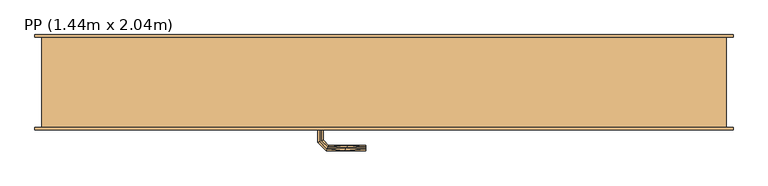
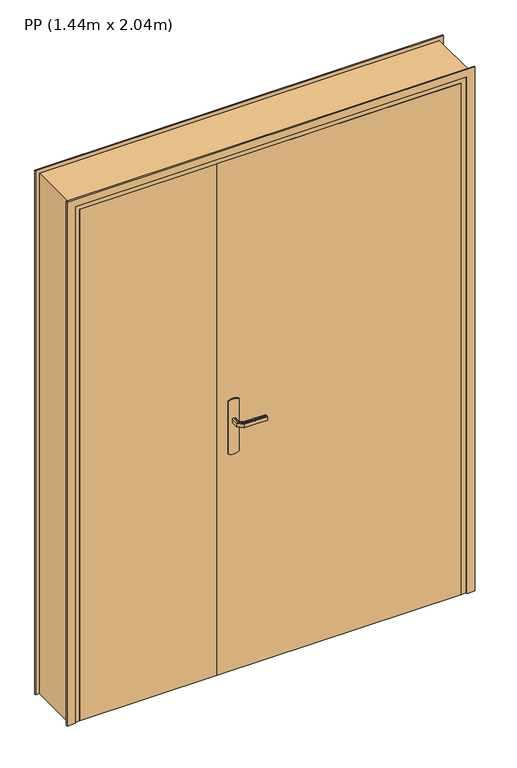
"""IFC4 building model written with IfcOpenShell, lengths in millimetres: door geometry, PP (1.44m x 2.04m)."""

from ifc_helpers import new_model, si_unit, frame, origin, origin_with_axes, place, context, project, spatial, polyline, outline, extrude, faceted_brep, source, transform, mapped, element, save


def pp_1_44m_x_2_04m_6fe1686b(model_context):
    return source(origin(), model_context, "Body", "SolidModel", [
        extrude(outline(polyline([(625.0, 40.0), (1545.0, 40.0), (1545.0, 0.0), (625.0, 0.0), (625.0, 40.0)])), origin_with_axes(), (0.0, 0.0, 1.0), 2040.0),
        extrude(outline(polyline([(866.0039831, 695.3527618), (870.0, 705.0), (1080.0, 705.0), (1083.9960169, 695.3527618), (1085.3589838, 685.0), (1083.9960169, 674.6472382), (1080.0, 665.0), (870.0, 665.0), (866.0039831, 674.6472382), (864.6410162, 685.0), (866.0039831, 695.3527618)])), frame((0.0, 40.0, 0.0), z_axis=(0.0, 1.0, 0.0), x_axis=(0.0, 0.0, 1.0)), (0.0, 0.0, 1.0), 5.0),
        faceted_brep([(682.9747013, -5.0, 1007.7804408), (687.0252987, -5.0, 1007.7804408), (691.0, -5.0, 1007.0), (691.0, -5.0, 993.0), (687.0252987, -5.0, 992.2195592), (682.9747013, -5.0, 992.2195592), (679.0, -5.0, 993.0), (679.0, -5.0, 1007.0), (679.0, -32.6509507, 1007.0), (682.9747013, -31.0045755, 1007.7804408), (699.0235852, -47.0534593, 1007.7804408), (700.7013975, -43.002862, 1007.7804408), (687.0252987, -29.3267632, 1007.7804408), (691.0, -27.680388, 1007.0), (691.0, -27.680388, 993.0), (687.0252987, -29.3267632, 992.2195592), (700.7013975, -43.002862, 992.2195592), (699.0235852, -47.0534593, 992.2195592), (682.9747013, -31.0045755, 992.2195592), (679.0, -32.6509507, 993.0), (697.37721, -51.0281607, 1007.0), (702.3477727, -39.0281607, 1007.0), (702.3477727, -39.0281607, 993.0), (697.37721, -51.0281607, 993.0), (785.0186406, -51.0281607, 993.0), (785.0186406, -47.0534593, 992.2195592), (785.0186406, -43.002862, 992.2195592), (785.0186406, -39.0281607, 993.0), (785.0186406, -39.0281607, 1007.0), (785.0186406, -43.002862, 1007.7804408), (785.0186406, -47.0534593, 1007.7804408), (785.0186406, -51.0281607, 1007.0), (737.3076972, -51.0281607, 1007.0), (742.8600191, -45.0281607, 1007.8786868), (743.6832067, -39.0281607, 1007.0), (743.6832067, -39.0281607, 993.0), (742.8600189, -45.0281608, 992.1213132), (737.3077002, -51.0281607, 993.0)], [[[0, 1, 2, 3, 4, 5, 6, 7]], [[8, 9, 0, 7]], [[9, 10, 11, 12, 1, 0]], [[12, 13, 2, 1]], [[3, 2, 13, 14]], [[14, 15, 4, 3]], [[15, 16, 17, 18, 5, 4]], [[18, 19, 6, 5]], [[7, 6, 19, 8]], [[20, 10, 9, 8]], [[11, 21, 13, 12]], [[14, 13, 21, 22]], [[22, 16, 15, 14]], [[17, 23, 19, 18]], [[8, 19, 23, 20]], [[24, 25, 26, 27, 28, 29, 30, 31]], [[32, 30, 33]], [[31, 30, 32]], [[10, 20, 32]], [[33, 34, 11]], [[21, 11, 34]], [[34, 29, 28]], [[30, 29, 33]], [[29, 34, 33]], [[10, 32, 33]], [[10, 33, 11]], [[22, 21, 34, 28, 27, 35]], [[35, 26, 36]], [[37, 36, 25]], [[22, 35, 16]], [[35, 27, 26]], [[24, 37, 25]], [[23, 17, 37]], [[37, 17, 36]], [[17, 16, 36]], [[16, 35, 36]], [[25, 36, 26]], [[20, 23, 37, 24, 31, 32]]]),
        faceted_brep([(1580.0, 0.0, 0.0), (1545.0, 0.0, 0.0), (1545.0, 40.0, 0.0), (1530.0, 40.0, 0.0), (1530.0, 200.0, 0.0), (1580.0, 200.0, 0.0), (1580.0, 200.0, 2075.0), (1580.0, 0.0, 2075.0), (1530.0, 200.0, 2025.0), (120.0, 200.0, 2025.0), (120.0, 200.0, 0.0), (70.0, 200.0, 0.0), (70.0, 200.0, 2075.0), (1530.0, 40.0, 2025.0), (1545.0, 40.0, 2040.0), (105.0, 40.0, 2040.0), (105.0, 40.0, 0.0), (120.0, 40.0, 0.0), (120.0, 40.0, 2025.0), (1545.0, 0.0, 2040.0), (70.0, 0.0, 2075.0), (70.0, 0.0, 0.0), (105.0, 0.0, 0.0), (105.0, 0.0, 2040.0)], [[[0, 1, 2, 3, 4, 5]], [[5, 6, 7, 0]], [[4, 8, 9, 10, 11, 12, 6, 5]], [[3, 13, 8, 4]], [[2, 14, 15, 16, 17, 18, 13, 3]], [[1, 19, 14, 2]], [[0, 7, 20, 21, 22, 23, 19, 1]], [[12, 11, 21, 20]], [[21, 11, 10, 17, 16, 22]], [[18, 17, 10, 9]], [[23, 22, 16, 15]], [[6, 12, 20, 7]], [[13, 18, 9, 8]], [[19, 23, 15, 14]]]),
        extrude(outline(polyline([(105.0, 0.0), (105.0, 40.0), (625.0, 40.0), (625.0, 0.0), (105.0, 0.0)])), origin_with_axes(), (0.0, 0.0, 1.0), 2040.0),
        faceted_brep([(682.9747013, 45.0, 1007.7804408), (679.0, 45.0, 1007.0), (679.0, 45.0, 993.0), (682.9747013, 45.0, 992.2195592), (687.0252987, 45.0, 992.2195592), (691.0, 45.0, 993.0), (691.0, 45.0, 1007.0), (687.0252987, 45.0, 1007.7804408), (691.0, 67.4852045, 993.0), (691.0, 67.4852045, 1007.0), (687.0252987, 69.1315797, 1007.7804408), (700.8389062, 82.9451872, 1007.7804408), (699.1610938, 86.9957845, 1007.7804408), (682.9747013, 70.8093921, 1007.7804408), (679.0, 72.4557673, 1007.0), (679.0, 72.4557673, 993.0), (682.9747013, 70.8093921, 992.2195592), (699.1610938, 86.9957845, 992.2195592), (700.8389062, 82.9451872, 992.2195592), (687.0252987, 69.1315797, 992.2195592), (702.4852814, 78.9704859, 993.0), (702.4852814, 78.9704859, 1007.0), (697.5147186, 90.9704859, 1007.0), (697.5147186, 90.9704859, 993.0), (785.0457837, 78.9704859, 993.0), (785.0457837, 82.9451872, 992.2195592), (785.0457837, 86.9957845, 992.2195592), (785.0457837, 90.9704859, 993.0), (785.0457837, 90.9704859, 1007.0), (785.0457837, 86.9957845, 1007.7804408), (785.0457837, 82.9451872, 1007.7804408), (785.0457837, 78.9704859, 1007.0), (743.7655206, 78.9704859, 993.0), (743.7655325, 78.9704859, 1007.0), (742.9423449, 84.9704859, 1007.8786868), (737.4452058, 90.9704859, 1007.0), (737.4452043, 90.9704859, 993.0), (742.9423451, 84.9704858, 992.1213132)], [[[0, 1, 2, 3, 4, 5, 6, 7]], [[6, 5, 8, 9]], [[9, 10, 7, 6]], [[10, 11, 12, 13, 0, 7]], [[13, 14, 1, 0]], [[2, 1, 14, 15]], [[15, 16, 3, 2]], [[16, 17, 18, 19, 4, 3]], [[19, 8, 5, 4]], [[9, 8, 20, 21]], [[21, 11, 10, 9]], [[12, 22, 14, 13]], [[15, 14, 22, 23]], [[23, 17, 16, 15]], [[18, 20, 8, 19]], [[24, 25, 26, 27, 28, 29, 30, 31]], [[21, 20, 32, 24, 31, 33]], [[33, 30, 34]], [[35, 34, 29]], [[21, 33, 11]], [[33, 31, 30]], [[28, 35, 29]], [[22, 12, 35]], [[35, 12, 34]], [[12, 11, 34]], [[11, 33, 34]], [[29, 34, 30]], [[22, 35, 28, 27, 36, 23]], [[36, 26, 37]], [[27, 26, 36]], [[17, 23, 36]], [[37, 32, 18]], [[20, 18, 32]], [[32, 25, 24]], [[26, 25, 37]], [[25, 32, 37]], [[17, 36, 37]], [[17, 37, 18]]]),
        extrude(outline(polyline([(866.0039831, 695.3527618), (870.0, 705.0), (1080.0, 705.0), (1083.9960169, 695.3527618), (1085.3589838, 685.0), (1083.9960169, 674.6472382), (1080.0, 665.0), (870.0, 665.0), (866.0039831, 674.6472382), (864.6410162, 685.0), (866.0039831, 695.3527618)])), frame((0.0, -5.0, 0.0), z_axis=(0.0, 1.0, 0.0), x_axis=(0.0, 0.0, 1.0)), (0.0, 0.0, 1.0), 5.0),
        extrude(outline(polyline([(0.0, 1595.0), (2090.0, 1595.0), (2090.0, 55.0), (0.0, 55.0), (0.0, 85.0), (2060.0, 85.0), (2060.0, 1565.0), (0.0, 1565.0), (0.0, 1595.0)])), frame((0.0, -5.0, 0.0), z_axis=(0.0, 1.0, 0.0), x_axis=(0.0, 0.0, 1.0)), (0.0, 0.0, 1.0), 5.0),
        extrude(outline(polyline([(0.0, 1595.0), (2090.0, 1595.0), (2090.0, 55.0), (0.0, 55.0), (0.0, 85.0), (2060.0, 85.0), (2060.0, 1565.0), (0.0, 1565.0), (0.0, 1595.0)])), frame((0.0, 200.0, 0.0), z_axis=(0.0, 1.0, 0.0), x_axis=(0.0, 0.0, 1.0)), (0.0, 0.0, 1.0), 5.0),
    ])


if __name__ == "__main__":
    model = new_model("IFC4")
    model_context = context("Model", 3, world=origin())
    ifc_project = project(units=[si_unit("LENGTHUNIT", "METRE", prefix="MILLI")], contexts=[model_context])
    site = spatial("IfcSite", under=ifc_project)
    building = spatial("IfcBuilding", under=site)
    placement = place(None, origin())
    pp_1_44m_x_2_04m_shape = pp_1_44m_x_2_04m_6fe1686b(model_context)
    element("IfcDoor", 1, ObjectType="PP (1.44m x 2.04m)", at=placement, inside=building, context=model_context, shape_type="MappedRepresentation", body=[
        mapped(pp_1_44m_x_2_04m_shape, transform((0.0, 0.0, 0.0), x_axis=(1.0, 0.0, 0.0), y_axis=(0.0, 1.0, 0.0), z_axis=(0.0, 0.0, 1.0))),
    ])
    save(model, "model.ifc")
